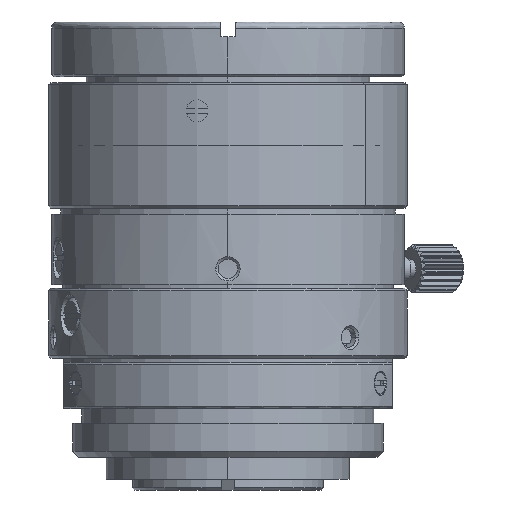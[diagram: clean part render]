
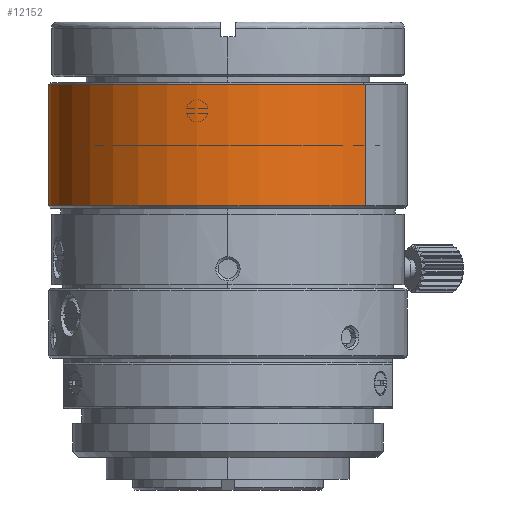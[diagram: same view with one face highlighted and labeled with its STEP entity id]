
A CAD part, front view. The second image highlights one B-rep face of the part: STEP entity #12152.
In plain terms, the highlighted cylindrical face has radius 14.75 mm (diameter 29.5 mm), a partial arc.
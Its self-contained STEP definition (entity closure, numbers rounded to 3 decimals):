
#3424 = CIRCLE ( 'NONE', #36095, 14.75 ) ;
#4632 = CARTESIAN_POINT ( 'NONE',  ( 11.299, -9.481, 23.891 ) ) ;
#5413 = CARTESIAN_POINT ( 'NONE',  ( 0., 0., 19.12 ) ) ;
#7500 = CARTESIAN_POINT ( 'NONE',  ( -11.299, 9.481, 19.12 ) ) ;
#10117 = VERTEX_POINT ( 'NONE', #29289 ) ;
#10187 = CIRCLE ( 'NONE', #31479, 14.75 ) ;
#12152 = ADVANCED_FACE ( 'NONE', ( #63561 ), #34579, .T. ) ;
#12568 = CARTESIAN_POINT ( 'NONE',  ( -11.299, 9.481, 23.891 ) ) ;
#13190 = CARTESIAN_POINT ( 'NONE',  ( 0., 0., 13.941 ) ) ;
#13254 = AXIS2_PLACEMENT_3D ( 'NONE', #5413, #15858, #20864 ) ;
#15858 = DIRECTION ( 'NONE',  ( 0., 0., -1. ) ) ;
#18443 = DIRECTION ( 'NONE',  ( -0.766, 0.643, 0. ) ) ;
#20864 = DIRECTION ( 'NONE',  ( -0.766, 0.643, 0. ) ) ;
#21065 = CARTESIAN_POINT ( 'NONE',  ( 0., 0., 23.891 ) ) ;
#21447 = VERTEX_POINT ( 'NONE', #12568 ) ;
#21673 = ORIENTED_EDGE ( 'NONE', *, *, #48659, .F. ) ;
#23872 = ORIENTED_EDGE ( 'NONE', *, *, #50706, .T. ) ;
#24369 = LINE ( 'NONE', #7500, #65578 ) ;
#26340 = DIRECTION ( 'NONE',  ( 1., 0., 0. ) ) ;
#26411 = EDGE_CURVE ( 'NONE', #10117, #31436, #10187, .T. ) ;
#28695 = CARTESIAN_POINT ( 'NONE',  ( 11.299, -9.481, 19.12 ) ) ;
#29289 = CARTESIAN_POINT ( 'NONE',  ( -11.299, 9.481, 13.941 ) ) ;
#30959 = CARTESIAN_POINT ( 'NONE',  ( 11.299, -9.481, 13.941 ) ) ;
#31436 = VERTEX_POINT ( 'NONE', #30959 ) ;
#31479 = AXIS2_PLACEMENT_3D ( 'NONE', #13190, #49560, #18443 ) ;
#33970 = ORIENTED_EDGE ( 'NONE', *, *, #26411, .T. ) ;
#34579 = CYLINDRICAL_SURFACE ( 'NONE', #13254, 14.75 ) ;
#36095 = AXIS2_PLACEMENT_3D ( 'NONE', #21065, #57321, #26340 ) ;
#38972 = ORIENTED_EDGE ( 'NONE', *, *, #59280, .F. ) ;
#43526 = VERTEX_POINT ( 'NONE', #4632 ) ;
#44286 = DIRECTION ( 'NONE',  ( 0., 0., -1. ) ) ;
#48014 = VECTOR ( 'NONE', #44286, 1000. ) ;
#48659 = EDGE_CURVE ( 'NONE', #43526, #31436, #49629, .T. ) ;
#49560 = DIRECTION ( 'NONE',  ( 0., 0., 1. ) ) ;
#49629 = LINE ( 'NONE', #28695, #48014 ) ;
#50706 = EDGE_CURVE ( 'NONE', #21447, #10117, #24369, .T. ) ;
#57321 = DIRECTION ( 'NONE',  ( 0., 0., 1. ) ) ;
#59280 = EDGE_CURVE ( 'NONE', #21447, #43526, #3424, .T. ) ;
#60613 = EDGE_LOOP ( 'NONE', ( #21673, #38972, #23872, #33970 ) ) ;
#63561 = FACE_OUTER_BOUND ( 'NONE', #60613, .T. ) ;
#64321 = DIRECTION ( 'NONE',  ( 0., 0., -1. ) ) ;
#65578 = VECTOR ( 'NONE', #64321, 1000. ) ;
